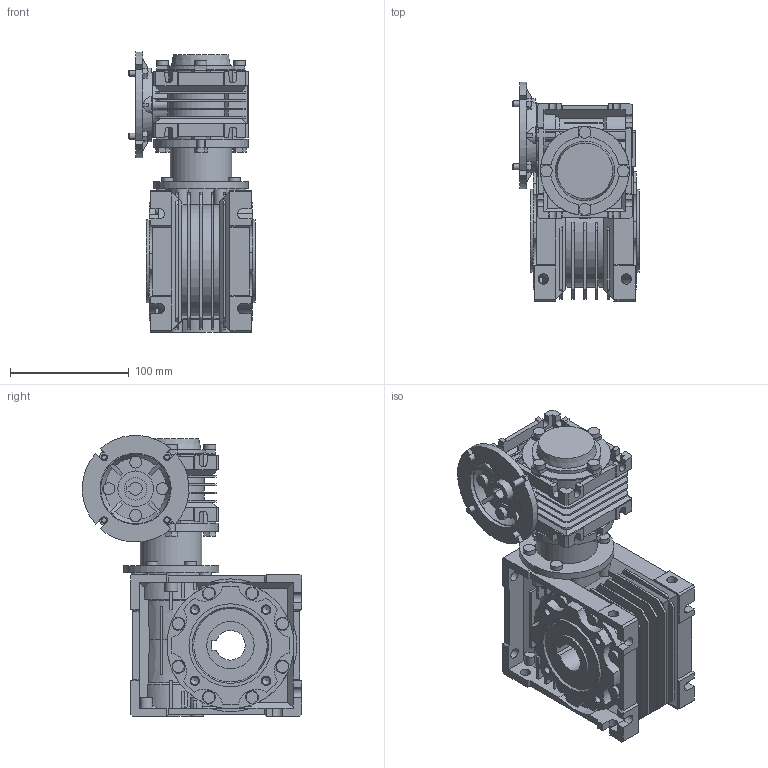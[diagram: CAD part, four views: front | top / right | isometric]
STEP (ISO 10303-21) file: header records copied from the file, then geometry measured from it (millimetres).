
FILE_DESCRIPTION(/* description */ ('STEP AP214'),/* implementation_level */ '2;1');
FILE_NAME(/* name */ 'NMRV-NMRV030-050100 (10x10)213125NO11NO00NO---(--------)',/* time_stamp */ '2024-10-22T10:50:16+02:00',/* author */ ('License CC BY-ND 4.0'),/* organization */ ('CADENAS'),/* preprocessor_version */ 'ST-DEVELOPER v19.3',/* originating_system */ 'PARTsolutions',/* authorisation */ ' ');
FILE_SCHEMA (('AUTOMOTIVE_DESIGN {1 0 10303 214 3 1 1}'));
Length unit declared in the file: millimetre
Products named in the file (13): NMRV-NMRV030-050100 (10x10)213125NO11NO00NO---(--------); 030-050100 (10x10)21314125No11No00NO---(--------)-d; 030-050100 (10x10)213125No11No00NO---d1; 030-050100 (10x10)213125No11No00T0631-d1; Gear unit 50; 050-25 (92)alc-n; VB 050-14 (14); Gear unit 30; 030-14 (63)alc-n; FT 030-050; Hollow shaft 30; VB 030-11 (11); 30-63 B14
Assembly tree (13 placements, depth 2):
  NMRV-NMRV030-050100 (10x10)213125NO11NO00NO---(--------)
    030-050100 (10x10)21314125No11No00NO---(--------)-d
    030-050100 (10x10)213125No11No00NO---d1
    030-050100 (10x10)213125No11No00T0631-d1  x2
    Gear unit 50
    050-25 (92)alc-n
    VB 050-14 (14)
    Gear unit 30
    030-14 (63)alc-n
    FT 030-050
    Hollow shaft 30
    VB 030-11 (11)
    30-63 B14
Bounding box: 107 x 184.85 x 236.85 mm (x, y, z)
Volume: 1513198.6 mm3; surface area: 352647.9 mm2
Topology: 9 solids, 21 shells, 1688 faces, 4464 edges, 2908 vertices
Faces by surface type: plane 1236, cylinder 354, cone 96, torus 2
Full cylindrical faces by diameter (mm): 3.545 x3, 3.775 x3, 4.65 x3, 4.917 x8, 5 x4, 5.55 x4, 6 x4, 6.647 x8, 8.8 x8, 10 x20, 16 x1, 19 x2, 24.8 x2, 28 x2, 30 x2, 34 x1, 37 x1, 38 x1, 40 x2, 47 x1, 52 x1, 55 x3, 60 x1, 70 x2, 75 x1, 80 x1, 107 x1
Entity records: 63038 total; most frequent: CARTESIAN_POINT 9601, ORIENTED_EDGE 8582, DIRECTION 8509, EDGE_CURVE 4291, LINE 3077, VECTOR 3077, VERTEX_POINT 2885, AXIS2_PLACEMENT_3D 2716
